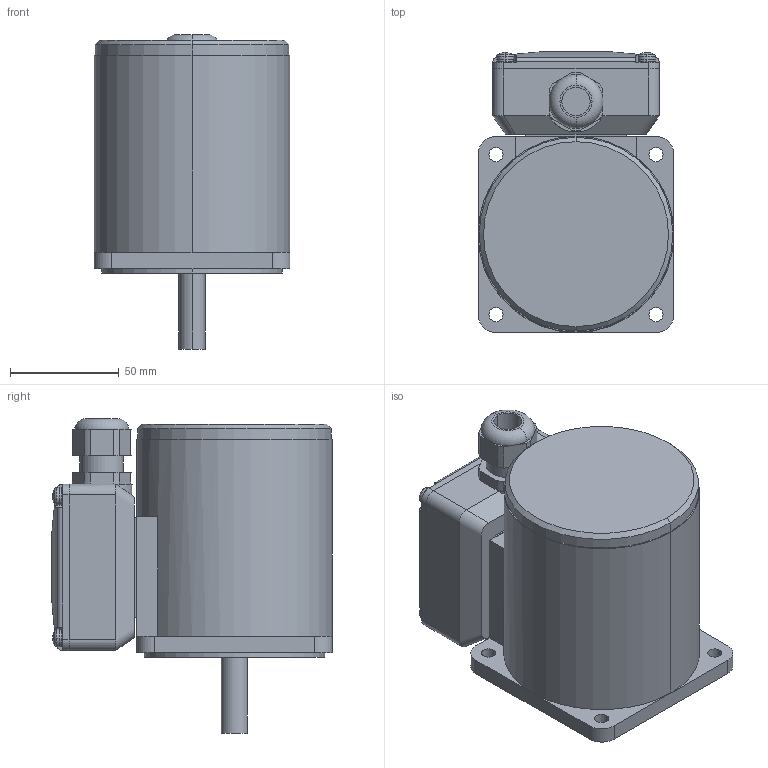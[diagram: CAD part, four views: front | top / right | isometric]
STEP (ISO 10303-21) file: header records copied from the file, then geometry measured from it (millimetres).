
FILE_DESCRIPTION (( 'STEP AP203' ), '1' );
FILE_NAME ('A1315.STEP', '2016-03-09T01:21:30', ( 'om' ), ( 'Hewlett-Packard Company' ), 'SwSTEP 2.0', 'SolidWorks 2014', '' );
FILE_SCHEMA (( 'CONFIG_CONTROL_DESIGN' ));
Length unit declared in the file: millimetre
Products named in the file (1): A1315
Bounding box: 90 x 129 x 144.5 mm (x, y, z)
Volume: 905799.4 mm3; surface area: 75722.1 mm2
Topology: 2 solids, 2 shells, 210 faces, 530 edges, 346 vertices
Faces by surface type: cylinder 112, plane 76, torus 10, sphere 8, cone 2, bspline 2
Entity records: 6923 total; most frequent: CARTESIAN_POINT 1584, DIRECTION 1182, ORIENTED_EDGE 1060, EDGE_CURVE 530, AXIS2_PLACEMENT_3D 470, VERTEX_POINT 346, CIRCLE 261, VECTOR 242
